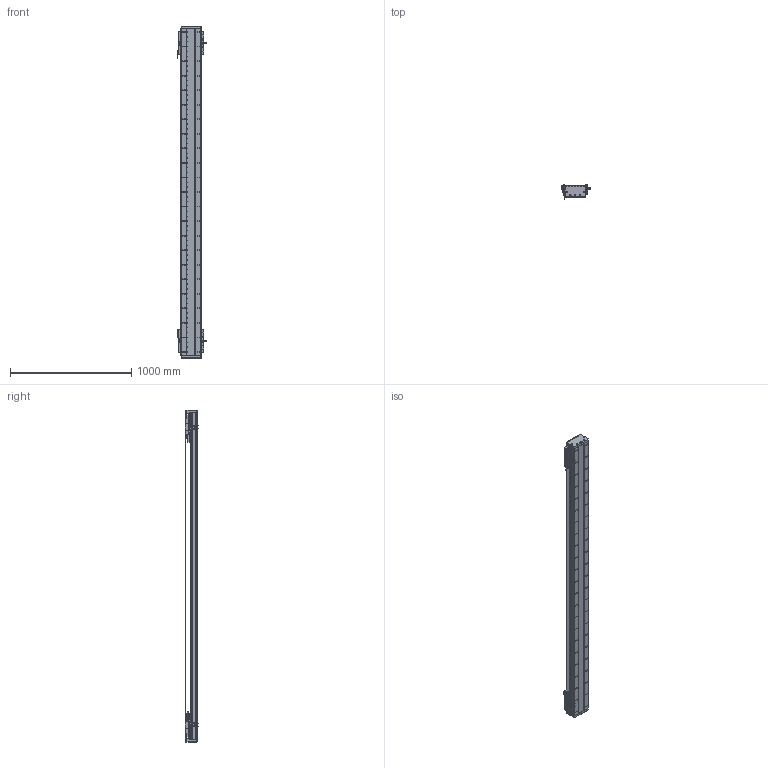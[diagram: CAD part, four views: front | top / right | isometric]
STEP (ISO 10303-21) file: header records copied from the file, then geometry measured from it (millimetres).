
FILE_DESCRIPTION (( 'STEP AP203' ), '1' );
FILE_NAME ('DA-C165-2-C2-T2240-C010-0.2 直线电机.STEP', '2023-05-11T08:27:50', ( '微软用户' ), ( '微软中国' ), 'SwSTEP 2.0', 'SolidWorks 2019', '' );
FILE_SCHEMA (( 'CONFIG_CONTROL_DESIGN' ));
Length unit declared in the file: millimetre
Products named in the file (22): 珨极趙賑雄怢啣wf-C2; 复件 DA165-GDYK-00 钢带压块^复件 CU165钢带组件_DA-C165-C2-T-C010-0.2-N 直线电机; 复件 DA95-HXJ-00 缓冲橡胶^DA-C165-C2-T-C010-0.2-N 直线电机; 复件 CU165钢带组件^DA-C165-C2-T-C010-0.2-N 直线电机; 复件 DKW-HXJ-JY-00 缓冲橡胶^DA-C165-C2-T-C010-0.2-N 直线电机; 复件 DA126-GYP-ZJ-00 中间光电感应片^DA-C165-C2-T-C010-0.2-N 直线电机; 复件 DA165-GYP-00 光电感应片^DA-C165-C2-T-C010-0.2-N 直线电机; IU-CU165-L-00 菁釱_L2700; 葩璃 PM-T45^DA-C165-C2-T-C010-0.2-N 眻盄萇儂; 复件 DA165-GD-DG-H-00 端盖^复件 CU165钢带组件_DA-C165-C2-T-C010-0.2-N 直线电机; 葩璃 DA95-GT-T-00^IU-CU165-L 菁釱絳寢_T; 复件 CKM02-W075-C1C2-TP-3.0 一体电机-C2^DA-C165-C2-T-C010-0.2-N 直线电机; 复件 XD-U-02L 磁栅尺^DA-C165-C2-T-C010-0.2-N 直线电机_T; 葩璃 PM-Y45^DA-C165-C2-T-C010-0.2-N 眻盄萇儂; 复件 DA165-GD-1860-002-00 钢带盖板^复件 CU165钢带组件_DA-C165-C2-T-C010-0.2-N 直线电机; IU-CU165-L 菁釱絳寢; 复件 DA165-GDLK-00 钢带拉块^复件 CU165钢带组件_DA-C165-C2-T-C010-0.2-N 直线电机; 复件 DMA-010-0.2 读数头^DA-C165-C2-T-C010-0.2-N 直线电机; 葩璃 CKM01-W075-TRL^DA-C165-C2-T-C010-0.2-N 眻盄萇儂; 复件 66338-1000-006-00 光电感应块^DA-C165-C2-T-C010-0.2-N 直线电机; DA-C165-2-C2-T2240-C010-0.2 眻盄萇儂; 复件 六角薄螺母 M3^DA-C165-C2-T-C010-0.2-N 直线电机_GB_FASTENER_NUT_STNAB M3-C
Assembly tree (43 placements, depth 3):
  DA-C165-2-C2-T2240-C010-0.2 眻盄萇儂
    IU-CU165-L 菁釱絳寢
      IU-CU165-L-00 菁釱_L2700
      葩璃 DA95-GT-T-00^IU-CU165-L 菁釱絳寢_T  x4
    复件 XD-U-02L 磁栅尺^DA-C165-C2-T-C010-0.2-N 直线电机_T
    葩璃 PM-T45^DA-C165-C2-T-C010-0.2-N 眻盄萇儂  x4
    葩璃 CKM01-W075-TRL^DA-C165-C2-T-C010-0.2-N 眻盄萇儂
    复件 CU165钢带组件^DA-C165-C2-T-C010-0.2-N 直线电机
      复件 DA165-GD-DG-H-00 端盖^复件 CU165钢带组件_DA-C165-C2-T-C010-0.2-N 直线电机  x2
      复件 DA165-GDYK-00 钢带压块^复件 CU165钢带组件_DA-C165-C2-T-C010-0.2-N 直线电机  x2
      复件 DA165-GD-1860-002-00 钢带盖板^复件 CU165钢带组件_DA-C165-C2-T-C010-0.2-N 直线电机
      复件 DA165-GDLK-00 钢带拉块^复件 CU165钢带组件_DA-C165-C2-T-C010-0.2-N 直线电机  x2
    复件 DA95-HXJ-00 缓冲橡胶^DA-C165-C2-T-C010-0.2-N 直线电机  x4
    复件 CKM02-W075-C1C2-TP-3.0 一体电机-C2^DA-C165-C2-T-C010-0.2-N 直线电机  x2
    复件 DMA-010-0.2 读数头^DA-C165-C2-T-C010-0.2-N 直线电机  x2
    复件 DA165-GYP-00 光电感应片^DA-C165-C2-T-C010-0.2-N 直线电机  x2
    复件 66338-1000-006-00 光电感应块^DA-C165-C2-T-C010-0.2-N 直线电机
    葩璃 PM-Y45^DA-C165-C2-T-C010-0.2-N 眻盄萇儂
    复件 DA126-GYP-ZJ-00 中间光电感应片^DA-C165-C2-T-C010-0.2-N 直线电机
    复件 DKW-HXJ-JY-00 缓冲橡胶^DA-C165-C2-T-C010-0.2-N 直线电机  x2
    复件 六角薄螺母 M3^DA-C165-C2-T-C010-0.2-N 直线电机_GB_FASTENER_NUT_STNAB M3-C  x6
    珨极趙賑雄怢啣wf-C2  x2
Bounding box: 247.2 x 111.45 x 2740 mm (x, y, z)
Volume: 16730763.4 mm3; surface area: 4869030 mm2
Topology: 119 solids, 119 shells, 5719 faces, 16138 edges, 10196 vertices
Faces by surface type: cylinder 3116, plane 1811, cone 704, torus 80, sphere 8
Entity records: 139506 total; most frequent: CARTESIAN_POINT 37615, ORIENTED_EDGE 21220, DIRECTION 20352, EDGE_CURVE 10610, AXIS2_PLACEMENT_3D 7732, VERTEX_POINT 6933, VECTOR 4888, LINE 4888
